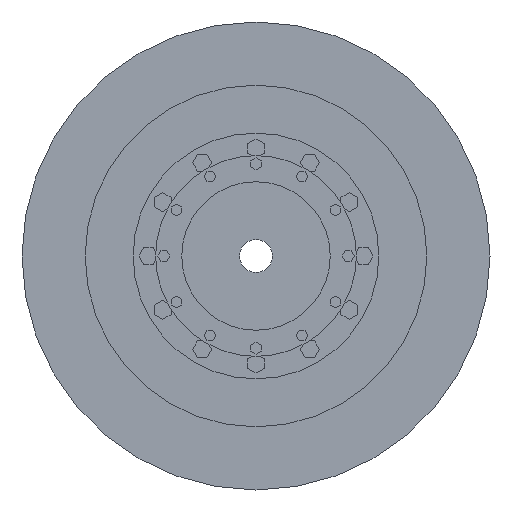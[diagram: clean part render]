
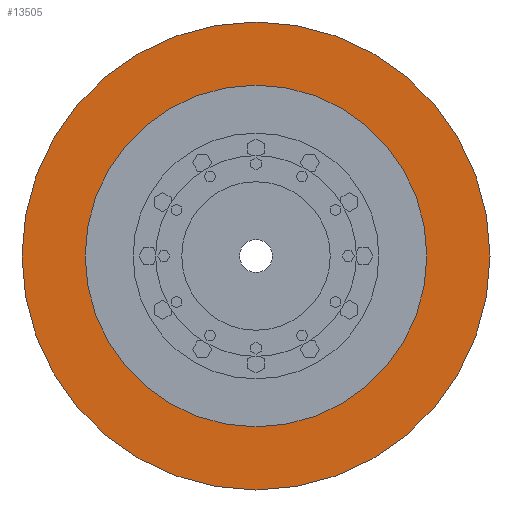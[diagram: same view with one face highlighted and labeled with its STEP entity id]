
A CAD part, left-side view. The second image highlights one B-rep face of the part: STEP entity #13505.
In plain terms, the highlighted planar face has unit normal (-1, 0, 0).
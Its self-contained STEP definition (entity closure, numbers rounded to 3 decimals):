
#13302=CARTESIAN_POINT('',(-46.,0.,0.));
#13303=DIRECTION('',(-1.,0.,0.));
#13304=DIRECTION('',(0.,1.,0.));
#13305=AXIS2_PLACEMENT_3D('',#13302,#13303,#13304);
#13307=CARTESIAN_POINT('',(-46.,0.,0.));
#13308=DIRECTION('',(1.,0.,0.));
#13309=DIRECTION('',(0.,1.,0.));
#13310=AXIS2_PLACEMENT_3D('',#13307,#13308,#13309);
#13312=CARTESIAN_POINT('',(-46.,0.,0.));
#13313=DIRECTION('',(1.,0.,0.));
#13314=DIRECTION('',(0.,1.,0.));
#13315=AXIS2_PLACEMENT_3D('',#13312,#13313,#13314);
#13325=CARTESIAN_POINT('',(-46.,0.,0.));
#13326=DIRECTION('',(-1.,0.,0.));
#13327=DIRECTION('',(0.,1.,0.));
#13328=AXIS2_PLACEMENT_3D('',#13325,#13326,#13327);
#13348=CARTESIAN_POINT('',(-46.,166.8,0.));
#13350=VERTEX_POINT('',#13348);
#13360=CARTESIAN_POINT('',(-46.,-166.8,0.));
#13362=VERTEX_POINT('',#13360);
#13365=CARTESIAN_POINT('',(-46.,228.5,0.));
#13367=VERTEX_POINT('',#13365);
#13369=CARTESIAN_POINT('',(-46.,-228.5,0.));
#13371=VERTEX_POINT('',#13369);
#13490=CARTESIAN_POINT('',(-46.,0.,0.));
#13491=DIRECTION('',(1.,0.,0.));
#13492=DIRECTION('',(0.,-1.,0.));
#13493=AXIS2_PLACEMENT_3D('',#13490,#13491,#13492);
#13494=PLANE('',#13493);
#13495=ORIENTED_EDGE('',*,*,#13483,.F.);
#13496=ORIENTED_EDGE('',*,*,#13472,.T.);
#13497=EDGE_LOOP('',(#13495,#13496));
#13498=FACE_OUTER_BOUND('',#13497,.F.);
#13500=ORIENTED_EDGE('',*,*,#13499,.F.);
#13502=ORIENTED_EDGE('',*,*,#13501,.T.);
#13503=EDGE_LOOP('',(#13500,#13502));
#13504=FACE_BOUND('',#13503,.F.);
#13505=ADVANCED_FACE('',(#13498,#13504),#13494,.F.);
#13306=CIRCLE('',#13305,228.5);
#13311=CIRCLE('',#13310,228.5);
#13316=CIRCLE('',#13315,166.8);
#13329=CIRCLE('',#13328,166.8);
#13472=EDGE_CURVE('',#13367,#13371,#13311,.T.);
#13483=EDGE_CURVE('',#13367,#13371,#13306,.T.);
#13499=EDGE_CURVE('',#13350,#13362,#13316,.T.);
#13501=EDGE_CURVE('',#13350,#13362,#13329,.T.);
